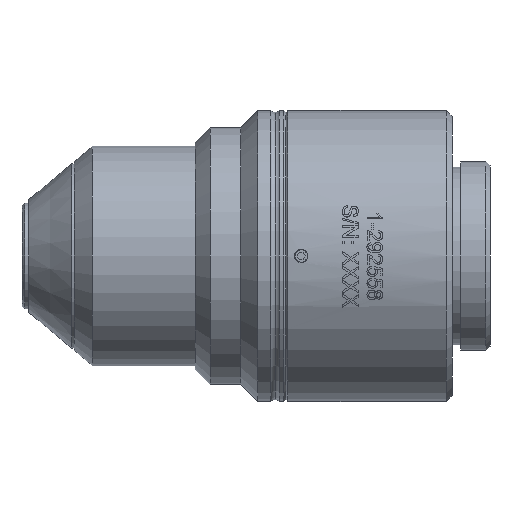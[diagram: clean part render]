
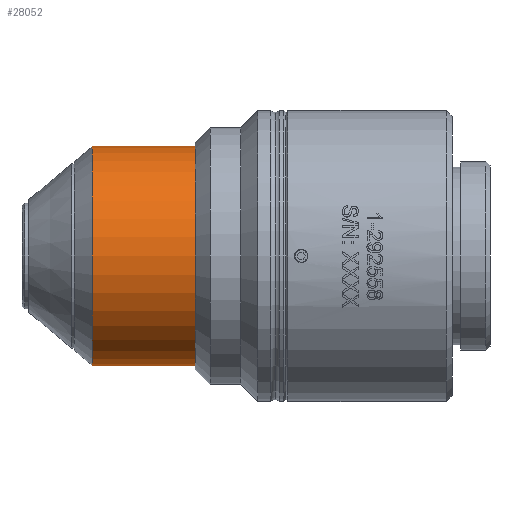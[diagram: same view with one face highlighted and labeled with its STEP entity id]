
A CAD part, front view. The second image highlights one B-rep face of the part: STEP entity #28052.
In plain terms, the highlighted cylindrical face has radius 14.5 mm (diameter 29 mm), a partial arc.
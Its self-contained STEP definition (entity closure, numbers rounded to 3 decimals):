
#7536 = VERTEX_POINT ( 'NONE', #41213 ) ;
#7961 = CARTESIAN_POINT ( 'NONE',  ( 15.166, 0., -14.5 ) ) ;
#8674 = EDGE_LOOP ( 'NONE', ( #47988, #38153, #9378, #73872 ) ) ;
#9047 = FACE_OUTER_BOUND ( 'NONE', #8674, .T. ) ;
#9378 = ORIENTED_EDGE ( 'NONE', *, *, #56358, .T. ) ;
#10852 = CYLINDRICAL_SURFACE ( 'NONE', #53678, 14.5 ) ;
#11698 = CARTESIAN_POINT ( 'NONE',  ( 41., 0., 14.5 ) ) ;
#20589 = EDGE_CURVE ( 'NONE', #51193, #7536, #43921, .T. ) ;
#24082 = EDGE_CURVE ( 'NONE', #7536, #87055, #70275, .T. ) ;
#24793 = EDGE_CURVE ( 'NONE', #51193, #36610, #43880, .T. ) ;
#28052 = ADVANCED_FACE ( 'NONE', ( #9047 ), #10852, .T. ) ;
#30499 = CARTESIAN_POINT ( 'NONE',  ( 41., 0., 0. ) ) ;
#30576 = AXIS2_PLACEMENT_3D ( 'NONE', #82521, #81594, #81152 ) ;
#33428 = DIRECTION ( 'NONE',  ( 0., 0., 1. ) ) ;
#36081 = DIRECTION ( 'NONE',  ( -1., 0., 0. ) ) ;
#36610 = VERTEX_POINT ( 'NONE', #11698 ) ;
#38153 = ORIENTED_EDGE ( 'NONE', *, *, #24793, .T. ) ;
#41213 = CARTESIAN_POINT ( 'NONE',  ( 27.392, 0., -14.5 ) ) ;
#43880 = CIRCLE ( 'NONE', #65864, 14.5 ) ;
#43921 = LINE ( 'NONE', #7961, #55580 ) ;
#44372 = DIRECTION ( 'NONE',  ( -1., 0., 0. ) ) ;
#44716 = CARTESIAN_POINT ( 'NONE',  ( 41., 0., -14.5 ) ) ;
#47988 = ORIENTED_EDGE ( 'NONE', *, *, #20589, .F. ) ;
#51193 = VERTEX_POINT ( 'NONE', #44716 ) ;
#52107 = CARTESIAN_POINT ( 'NONE',  ( 27.392, 0., 14.5 ) ) ;
#53678 = AXIS2_PLACEMENT_3D ( 'NONE', #67933, #68865, #33428 ) ;
#55580 = VECTOR ( 'NONE', #36081, 1000. ) ;
#55715 = CARTESIAN_POINT ( 'NONE',  ( 15.166, 0., 14.5 ) ) ;
#56358 = EDGE_CURVE ( 'NONE', #36610, #87055, #69955, .T. ) ;
#58604 = DIRECTION ( 'NONE',  ( 0., 0., 1. ) ) ;
#62144 = DIRECTION ( 'NONE',  ( -1., 0., 0. ) ) ;
#62419 = VECTOR ( 'NONE', #62144, 1000. ) ;
#65864 = AXIS2_PLACEMENT_3D ( 'NONE', #30499, #44372, #58604 ) ;
#67933 = CARTESIAN_POINT ( 'NONE',  ( 15.166, 0., 0. ) ) ;
#68865 = DIRECTION ( 'NONE',  ( -1., 0., 0. ) ) ;
#69955 = LINE ( 'NONE', #55715, #62419 ) ;
#70275 = CIRCLE ( 'NONE', #30576, 14.5 ) ;
#73872 = ORIENTED_EDGE ( 'NONE', *, *, #24082, .F. ) ;
#81152 = DIRECTION ( 'NONE',  ( 0., 0., 1. ) ) ;
#81594 = DIRECTION ( 'NONE',  ( -1., 0., 0. ) ) ;
#82521 = CARTESIAN_POINT ( 'NONE',  ( 27.392, 0., 0. ) ) ;
#87055 = VERTEX_POINT ( 'NONE', #52107 ) ;
